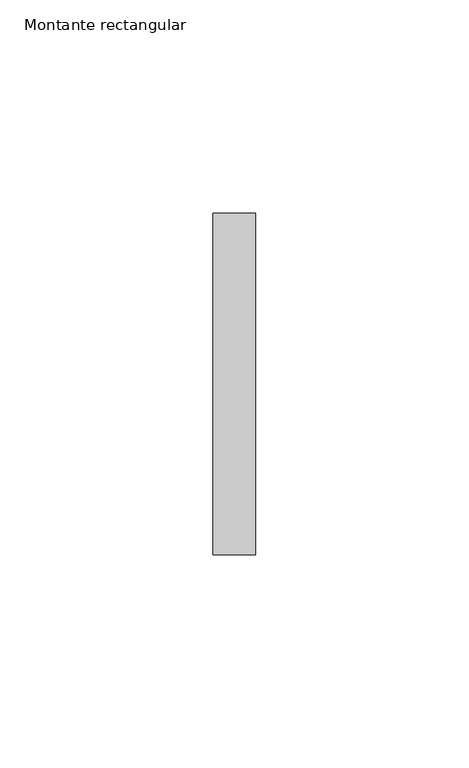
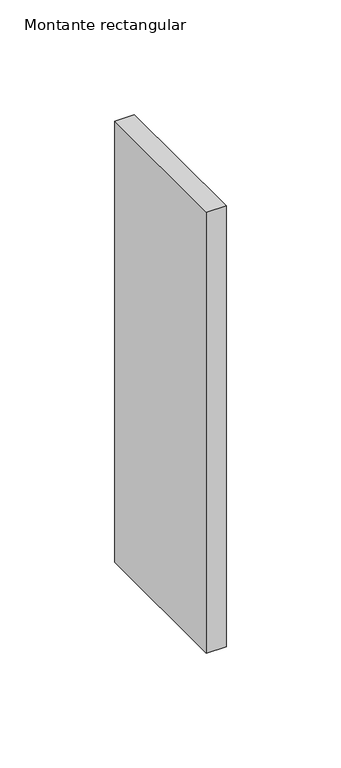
"""IFC4 building model written with IfcOpenShell, lengths in millimetres: member geometry, Montante rectangular : Junta de paves."""

from ifc_helpers import new_model, si_unit, frame, origin, place, context, project, spatial, polyline, outline, extrude, source, transform, mapped, element, save


def montante_rectangular_21ec1a72(model_context):
    return source(origin(), model_context, "Body", "SweptSolid", [
        extrude(outline(polyline([(0.0, 40.0), (0.0, -40.0), (-10.0, -40.0), (-10.0, 40.0), (0.0, 40.0)])), frame((0.0, 0.0, -235.0), z_axis=(0.0, 0.0, 1.0), x_axis=(1.0, 0.0, 0.0)), (0.0, 0.0, 1.0), 235.0),
    ])


if __name__ == "__main__":
    model = new_model("IFC4")
    model_context = context("Model", 3, world=origin())
    ifc_project = project(units=[si_unit("LENGTHUNIT", "METRE", prefix="MILLI")], contexts=[model_context])
    site = spatial("IfcSite", under=ifc_project)
    building = spatial("IfcBuilding", under=site)
    placement = place(None, origin())
    montante_rectangular_shape = montante_rectangular_21ec1a72(model_context)
    element("IfcMember", 1, ObjectType="Montante rectangular : Junta de paves", at=placement, inside=building, context=model_context, shape_type="MappedRepresentation", body=[
        mapped(montante_rectangular_shape, transform((0.0, 0.0, 0.0), x_axis=(1.0, 0.0, 0.0), y_axis=(0.0, 1.0, 0.0), z_axis=(0.0, 0.0, 1.0))),
    ])
    save(model, "model.ifc")
